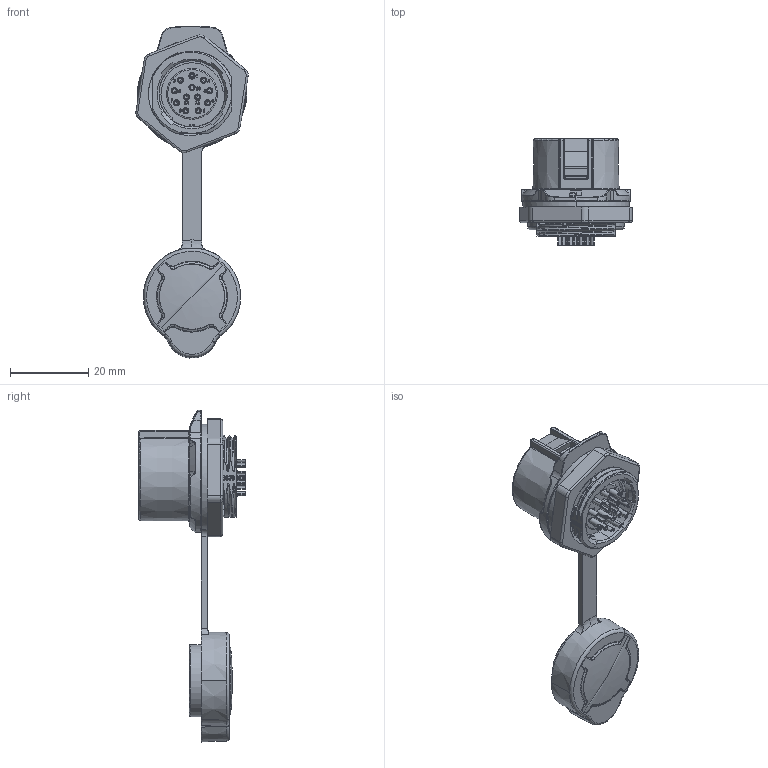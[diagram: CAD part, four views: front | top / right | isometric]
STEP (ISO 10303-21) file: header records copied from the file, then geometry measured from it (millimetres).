
FILE_DESCRIPTION (( 'STEP AP203' ), '1' );
FILE_NAME ('LP-20-J12SX-02-171.STEP', '2023-11-27T09:53:17', ( 'Windows 蚚誧' ), ( 'Organization' ), 'SwSTEP 2.0', 'SolidWorks 2017', '' );
FILE_SCHEMA (( 'CONFIG_CONTROL_DESIGN' ));
Length unit declared in the file: millimetre
Products named in the file (1): LP-20-J12SX-02-171
Bounding box: 28.79 x 27.3 x 85.11 mm (x, y, z)
Volume: 11042.2 mm3; surface area: 12769.3 mm2
Topology: 1 solids, 2 shells, 2124 faces, 5608 edges, 3565 vertices
Faces by surface type: bspline 781, plane 610, cylinder 391, cone 218, torus 124
Entity records: 116821 total; most frequent: CARTESIAN_POINT 70951, ORIENTED_EDGE 11190, DIRECTION 6975, EDGE_CURVE 5595, VERTEX_POINT 3567, AXIS2_PLACEMENT_3D 2496, B_SPLINE_CURVE_WITH_KNOTS 2328, EDGE_LOOP 2252
